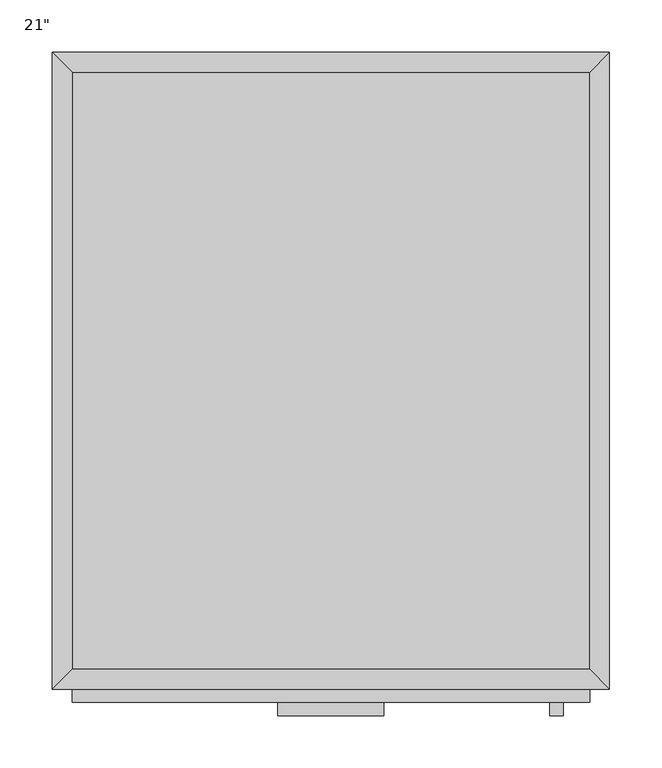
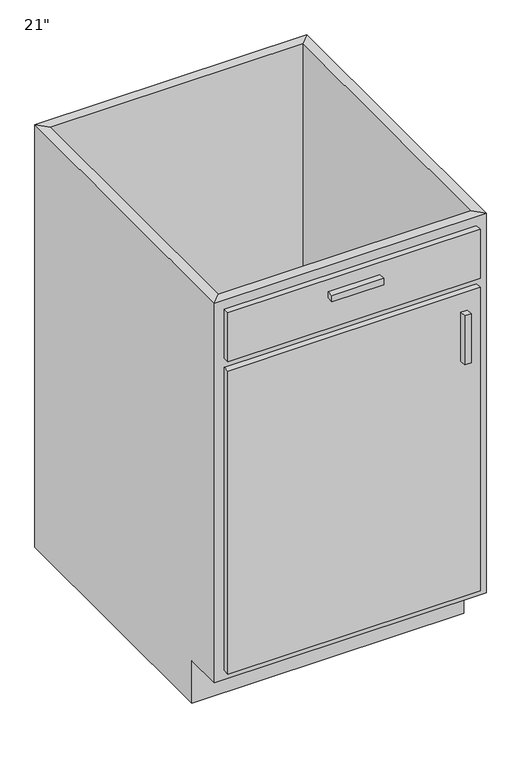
"""IFC4 building model written with IfcOpenShell, lengths in millimetres: furniture geometry."""

from ifc_helpers import new_model, si_unit, frame, origin, place, context, project, spatial, polyline, outline, extrude, faceted_brep, source, transform, mapped, element, save


def furniture_b282fead(model_context):
    return source(origin(), model_context, "Body", "SolidModel", [
        faceted_brep([(266.3877049, -590.55, 876.3), (266.3877049, -590.55, 88.9), (-228.9122951, -590.55, 88.9), (-228.9122951, -590.55, 876.3), (-247.9622951, -609.6, 876.3), (285.4377049, -609.6, 876.3), (-247.9622951, -609.6, 88.9), (285.4377049, -609.6, 88.9), (-228.9122951, -533.4, 88.9), (-228.9122951, -19.05, 88.9), (-228.9122951, -19.05, 876.3), (-247.9622951, 0.0, 876.3), (-247.9622951, 0.0, 0.0), (-247.9622951, -533.4, 0.0), (-247.9622951, -533.4, 88.9), (266.3877049, -19.05, 88.9), (266.3877049, -19.05, 876.3), (285.4377049, 0.0, 876.3), (285.4377049, 0.0, 0.0), (266.3877049, -533.4, 88.9), (285.4377049, -533.4, 88.9), (285.4377049, -533.4, 0.0)], [[[0, 1, 2, 3]], [[0, 3, 4, 5]], [[5, 4, 6, 7]], [[2, 1, 7, 6]], [[3, 2, 8, 9, 10]], [[4, 3, 10, 11]], [[6, 4, 11, 12, 13, 14]], [[2, 6, 14, 8]], [[10, 9, 15, 16]], [[11, 10, 16, 17]], [[12, 11, 17, 18]], [[1, 0, 16, 15, 19]], [[0, 5, 17, 16]], [[5, 7, 20, 21, 18, 17]], [[7, 1, 19, 20]], [[8, 19, 15, 9]], [[18, 21, 13, 12]], [[13, 21, 20, 19, 8, 14]]]),
        extrude(outline(polyline([(240.9877049, -635.0), (228.2877049, -635.0), (228.2877049, -622.3), (240.9877049, -622.3), (240.9877049, -635.0)])), frame((0.0, 0.0, 596.9), z_axis=(0.0, 0.0, 1.0), x_axis=(1.0, 0.0, 0.0)), (0.0, 0.0, 1.0), 101.6),
        extrude(outline(polyline([(69.5377049, -635.0), (-32.0622951, -635.0), (-32.0622951, -622.3), (69.5377049, -622.3), (69.5377049, -635.0)])), frame((0.0, 0.0, 819.15), z_axis=(0.0, 0.0, 1.0), x_axis=(1.0, 0.0, 0.0)), (0.0, 0.0, 1.0), 12.7),
        extrude(outline(polyline([(266.3877049, -622.3), (-228.9122951, -622.3), (-228.9122951, -609.6), (266.3877049, -609.6), (266.3877049, -622.3)])), frame((0.0, 0.0, 107.95), z_axis=(0.0, 0.0, 1.0), x_axis=(1.0, 0.0, 0.0)), (0.0, 0.0, 1.0), 628.65),
        extrude(outline(polyline([(266.3877049, -622.3), (-228.9122951, -622.3), (-228.9122951, -609.6), (266.3877049, -609.6), (266.3877049, -622.3)])), frame((0.0, 0.0, 755.65), z_axis=(0.0, 0.0, 1.0), x_axis=(1.0, 0.0, 0.0)), (0.0, 0.0, 1.0), 101.6),
        extrude(outline(polyline([(266.3877049, -19.05), (266.3877049, -590.55), (-228.9122951, -590.55), (-228.9122951, -19.05), (266.3877049, -19.05)])), frame((0.0, 0.0, 88.9), z_axis=(0.0, 0.0, 1.0), x_axis=(1.0, 0.0, 0.0)), (0.0, 0.0, 1.0), 19.05),
    ])


if __name__ == "__main__":
    model = new_model("IFC4")
    model_context = context("Model", 3, world=origin())
    ifc_project = project(units=[si_unit("LENGTHUNIT", "METRE", prefix="MILLI")], contexts=[model_context])
    site = spatial("IfcSite", under=ifc_project)
    building = spatial("IfcBuilding", under=site)
    placement = place(None, origin())
    furniture_shape = furniture_b282fead(model_context)
    element("IfcFurniture", 1, ObjectType="Base Cabinet-Single Door & Drawer : 21\"", at=placement, inside=building, context=model_context, shape_type="MappedRepresentation", body=[
        mapped(furniture_shape, transform((0.0, 0.0, 0.0), x_axis=(1.0, 0.0, 0.0), y_axis=(0.0, 1.0, 0.0), z_axis=(0.0, 0.0, 1.0))),
    ])
    save(model, "model.ifc")
